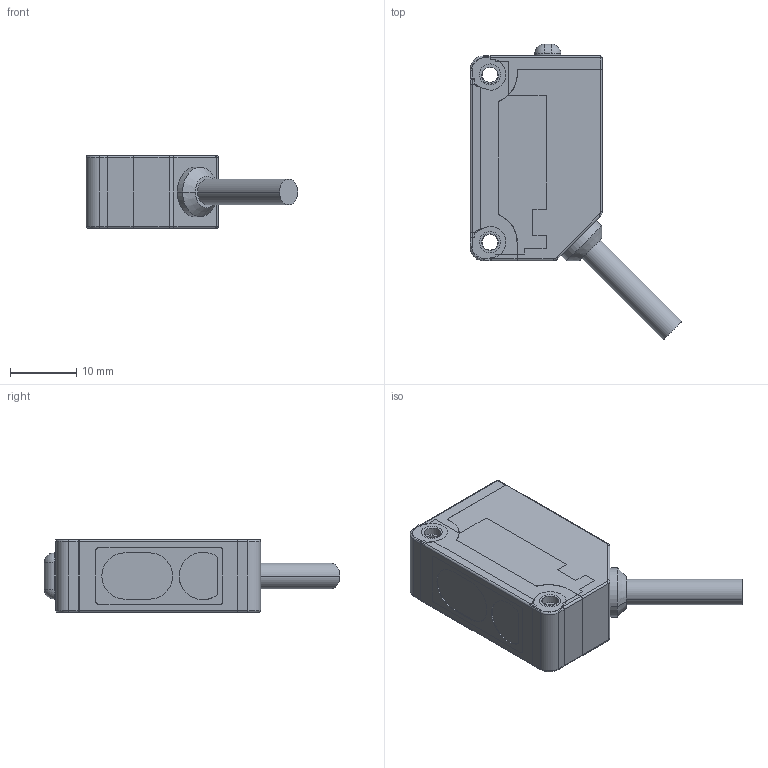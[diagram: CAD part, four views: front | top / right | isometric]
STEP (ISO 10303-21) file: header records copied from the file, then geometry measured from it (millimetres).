
FILE_DESCRIPTION((''),'2;1');
FILE_NAME('SUNX_ASM_27_X_ASM','2020-08-15T',('hjc'),(''),'PRO/ENGINEER BY PARAMETRIC TECHNOLOGY CORPORATION, 2004110','PRO/ENGINEER BY PARAMETRIC TECHNOLOGY CORPORATION, 2004110','');
FILE_SCHEMA(('CONFIG_CONTROL_DESIGN'));
Length unit declared in the file: millimetre
Products named in the file (14): LEN-SUNX_8_X; BGS-PCB_N_OMR_25_X; PF31-BGS-OM_OMR_6_X; MANIFOLD_SOLID_BREP_32545_X; PF31-002_DR_BGS_N_OMR_39_X_ASM; GBS-TIAOJIE_N_OMR_7_X; BGS-LVGUANGBAN_30_X; PF31-XUANNIU_8_X; DAOXIAN_1_X; PCBBB_X; PF31-001_DR_BGS_N_OMR_SO; BAOJIAO-BGS; BGS-OM-J-JINGJIA-LOW; SUNX_ASM_27_X_ASM
Assembly tree (13 placements, depth 3):
  SUNX_ASM_27_X_ASM
    LEN-SUNX_8_X
    BGS-PCB_N_OMR_25_X
    PF31-BGS-OM_OMR_6_X
    PF31-002_DR_BGS_N_OMR_39_X_ASM
      MANIFOLD_SOLID_BREP_32545_X
    GBS-TIAOJIE_N_OMR_7_X
    BGS-LVGUANGBAN_30_X
    PF31-XUANNIU_8_X
    DAOXIAN_1_X
    PCBBB_X
    PF31-001_DR_BGS_N_OMR_SO
    BAOJIAO-BGS
    BGS-OM-J-JINGJIA-LOW
Bounding box: 32.05 x 44.8 x 11 mm (x, y, z)
Volume: 4469 mm3; surface area: 10329.7 mm2
Topology: 16 solids, 18 shells, 1846 faces, 5176 edges, 3383 vertices
Faces by surface type: plane 1199, cylinder 495, bspline 49, torus 35, sphere 32, cone 28, revolution 8
Entity records: 64366 total; most frequent: CARTESIAN_POINT 16244, ORIENTED_EDGE 10238, DIRECTION 9670, EDGE_CURVE 5136, VECTOR 3686, LINE 3686, VERTEX_POINT 3381, AXIS2_PLACEMENT_3D 2988
